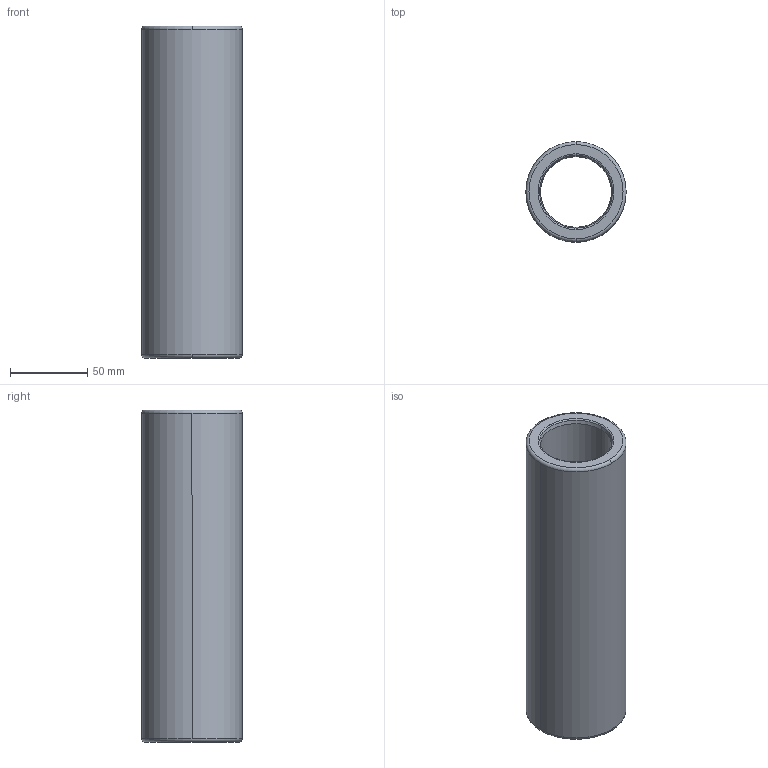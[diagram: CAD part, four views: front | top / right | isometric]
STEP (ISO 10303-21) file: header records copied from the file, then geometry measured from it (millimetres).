
FILE_DESCRIPTION((''),'2;1');
FILE_NAME('B30_038_215.stp','2009-01-12T10:48:57',(''),(''),'Mechanical Desktop 2009','Mechanical Desktop 2009',', , ');
FILE_SCHEMA(('CONFIG_CONTROL_DESIGN'));
Length unit declared in the file: millimetre
Products named in the file (2): Product; blmdl1
Assembly tree (1 placements, depth 2):
  Product
    blmdl1
Bounding box: 64.99 x 64.99 x 215 mm (x, y, z)
Volume: 355670.7 mm3; surface area: 77642.5 mm2
Topology: 1 solids, 1 shells, 18 faces, 48 edges, 32 vertices
Faces by surface type: torus 8, cylinder 4, cone 4, plane 2
Entity records: 705 total; most frequent: DIRECTION 128, CARTESIAN_POINT 100, ORIENTED_EDGE 96, AXIS2_PLACEMENT_3D 60, EDGE_CURVE 48, CIRCLE 40, VERTEX_POINT 32, EDGE_LOOP 20
